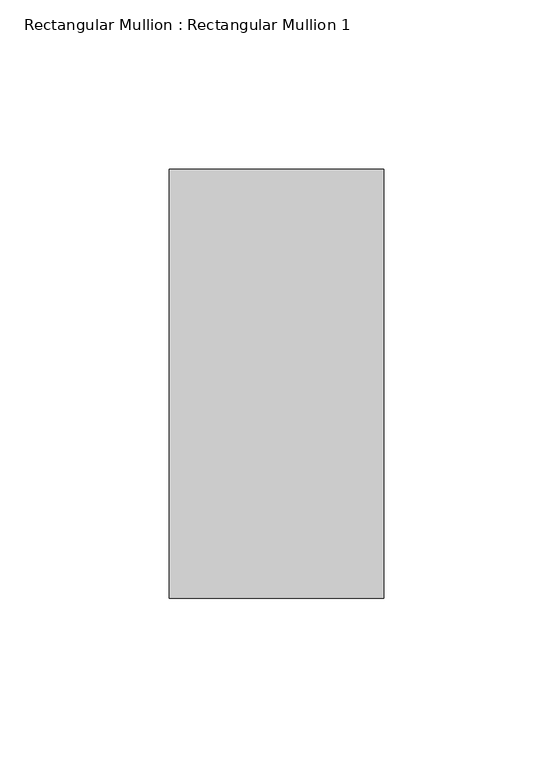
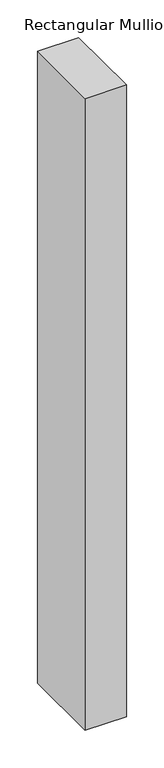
"""IFC4 building model written with IfcOpenShell, lengths in millimetres: member geometry, Rectangular Mullion : Rectangular Mullion 1."""

from ifc_helpers import new_model, si_unit, frame, origin, place, context, project, spatial, polyline, outline, extrude, source, transform, mapped, element, save


def rectangular_mullion_rectangular_mullion_1_9e40f087(model_context):
    return source(origin(), model_context, "Body", "SweptSolid", [
        extrude(outline(polyline([(0.0, 63.5), (0.0, -63.5), (-63.5, -63.5), (-63.5, 63.5), (0.0, 63.5)])), frame((0.0, 0.0, -1027.0854522), z_axis=(0.0, 0.0, 1.0), x_axis=(1.0, 0.0, 0.0)), (0.0, 0.0, 1.0), 1027.0854522),
    ])


if __name__ == "__main__":
    model = new_model("IFC4")
    model_context = context("Model", 3, world=origin())
    ifc_project = project(units=[si_unit("LENGTHUNIT", "METRE", prefix="MILLI")], contexts=[model_context])
    site = spatial("IfcSite", under=ifc_project)
    building = spatial("IfcBuilding", under=site)
    placement = place(None, origin())
    rectangular_mullion_rectangular_mullion_1_shape = rectangular_mullion_rectangular_mullion_1_9e40f087(model_context)
    element("IfcMember", 1, ObjectType="Rectangular Mullion : Rectangular Mullion 1", at=placement, inside=building, context=model_context, shape_type="MappedRepresentation", body=[
        mapped(rectangular_mullion_rectangular_mullion_1_shape, transform((0.0, 0.0, 0.0), x_axis=(1.0, 0.0, 0.0), y_axis=(0.0, 1.0, 0.0), z_axis=(0.0, 0.0, 1.0))),
    ])
    save(model, "model.ifc")
